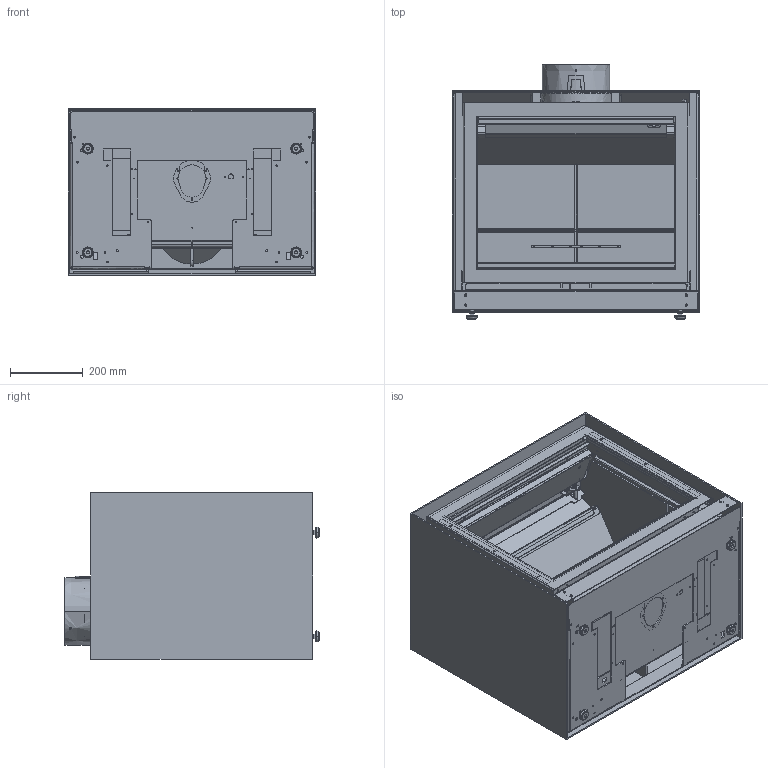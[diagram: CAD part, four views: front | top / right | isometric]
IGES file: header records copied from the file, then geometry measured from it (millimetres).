
Start section:  PTC IGES file: 1668cube.igs
Global section: file name: 1668cube.igs; native system: Creo Parametric by Parametric Technology Corporation; preprocessor: 2012230; author: jbo; organization: Unknown; date: 20121108.115138; units: millimetre
Bounding box: 680 x 698 x 455.8 mm (x, y, z)
Volume: 27578839.8 mm3; surface area: 8683719.2 mm2
Topology: 23 solids, 23 shells, 3764 faces, 10162 edges, 6333 vertices
Faces by surface type: bspline 2238, revolution 1526
